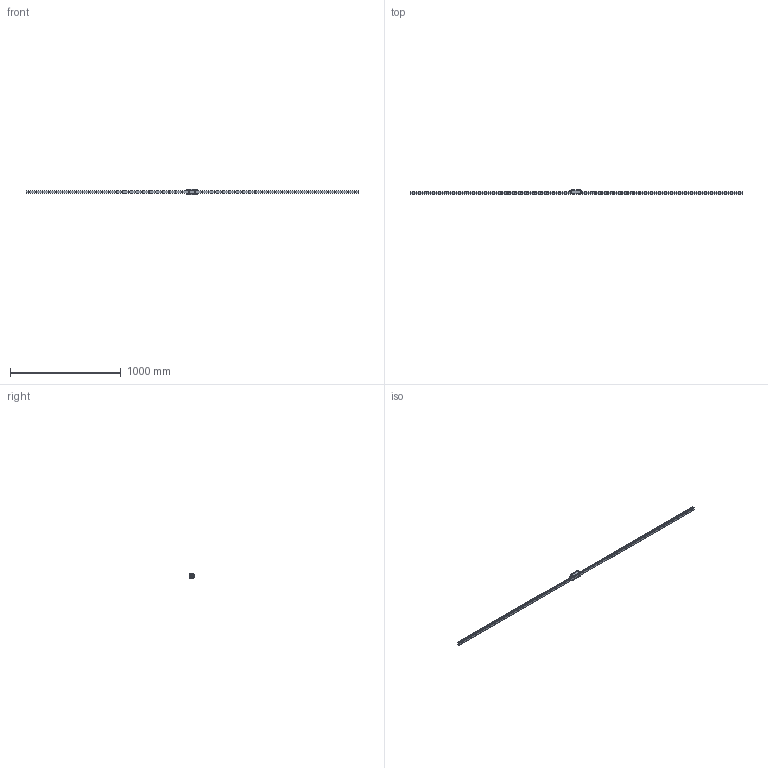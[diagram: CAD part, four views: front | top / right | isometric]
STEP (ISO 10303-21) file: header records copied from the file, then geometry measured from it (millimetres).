
FILE_DESCRIPTION(/* description */ ('STEP AP214'),/* implementation_level */ '2;1');
FILE_NAME(/* name */ 'HDR25LR1SS-3000L_G30_0_B-M6F_1447-75_0_0_01',/* time_stamp */ '2023-06-30T12:49:39+02:00',/* author */ ('License CC BY-ND 4.0'),/* organization */ ('CADENAS'),/* preprocessor_version */ 'ST-DEVELOPER v19.3',/* originating_system */ 'PARTsolutions',/* authorisation */ ' ');
FILE_SCHEMA (('AUTOMOTIVE_DESIGN {1 0 10303 214 3 1 1}'));
Length unit declared in the file: millimetre
Products named in the file (4): HDR25LR1SS-3000L_G30_0_B-M6F_1447-75_0_0_01; hsr_ftht_B-M6F_grease_nipple_joint; HDR25LRSSB-M6F Slider-1; HDR25LR1300030 Rail
Assembly tree (3 placements, depth 2):
  HDR25LR1SS-3000L_G30_0_B-M6F_1447-75_0_0_01
    hsr_ftht_B-M6F_grease_nipple_joint
    HDR25LRSSB-M6F Slider-1
    HDR25LR1300030 Rail
Bounding box: 3000 x 40 x 48 mm (x, y, z)
Volume: 1406831.8 mm3; surface area: 348901 mm2
Topology: 3 solids, 3 shells, 372 faces, 898 edges, 587 vertices
Faces by surface type: cylinder 172, plane 170, cone 25, sphere 3, torus 2
Full cylindrical faces by diameter (mm): 4.917 x8, 5.2 x4, 6 x1, 7 x50, 8 x1, 11 x50
Entity records: 10503 total; most frequent: DIRECTION 1846, CARTESIAN_POINT 1803, ORIENTED_EDGE 1492, AXIS2_PLACEMENT_3D 748, EDGE_CURVE 746, FACE_BOUND 673, EDGE_LOOP 665, VERTEX_POINT 581
